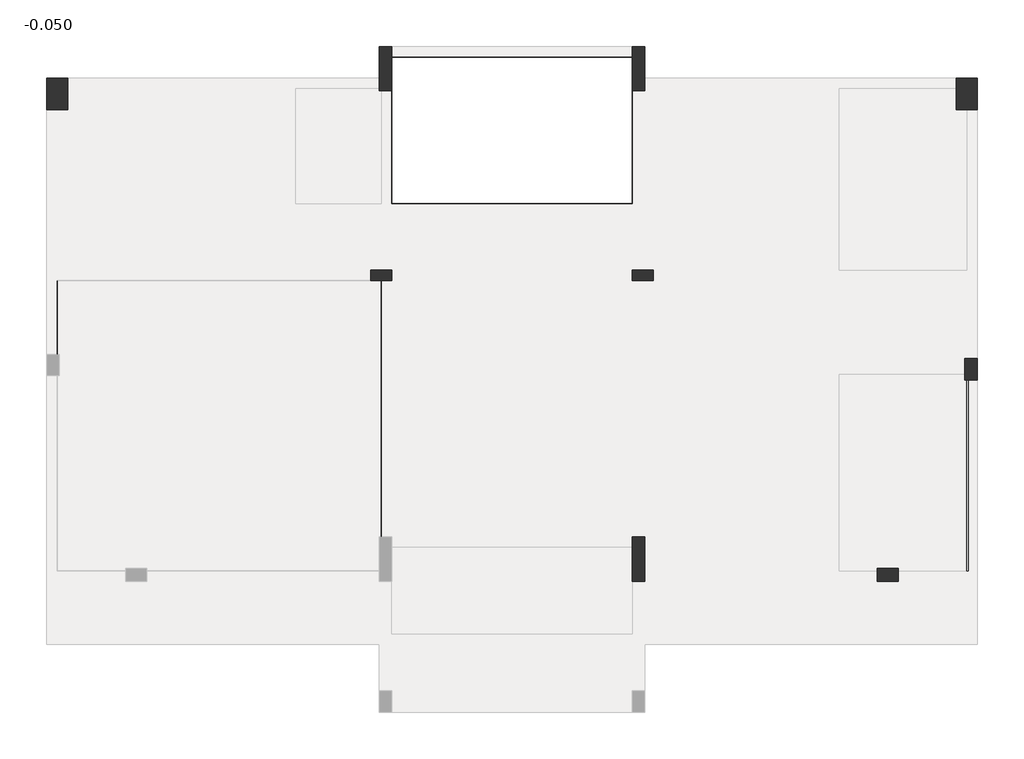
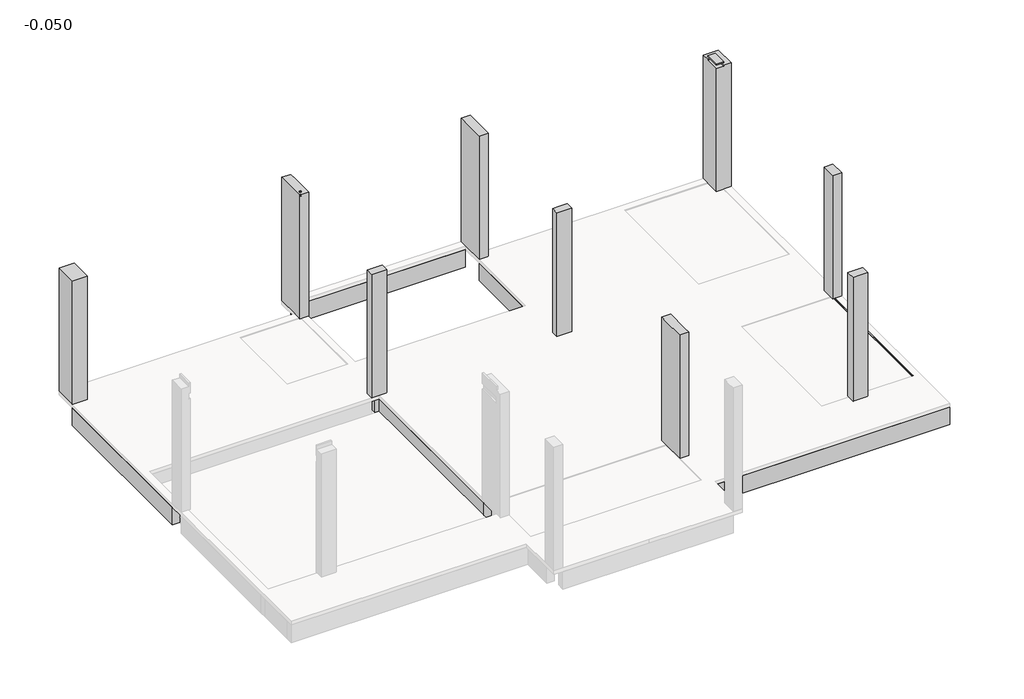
# One storey, part 2 of 2: 19 beams, 9 columns.
"""IFC4 building model written with IfcOpenShell, lengths in millimetres."""

from ifc_helpers import new_model, si_unit, frame, origin, place, context, project, spatial, polyline, outline, extrude, faceted_brep, element, save

model = new_model("IFC4")

# Units and contexts
model_context = context("Model", 3, world=origin())
ifc_project = project(units=[si_unit("LENGTHUNIT", "METRE", prefix="MILLI")], contexts=[model_context])

# Site, building, storey
site = spatial("IfcSite", under=ifc_project)
building = spatial("IfcBuilding", under=site)
storey = spatial("IfcBuildingStorey", under=building, Name="-0.050", Elevation=-50.0)

# Beams
placement = place(None, origin())
element("IfcBeam", 1, ObjectType="混凝土 - 矩形梁 : KL1 200X600", at=placement, inside=storey, context=model_context, shape_type="Brep", body=[
    faceted_brep([(-13044.5197818, 2646.0461731, -650.0), (-7144.5197818, 2646.0461731, -650.0), (-7144.5197818, 2646.0461731, -150.0), (-8724.5197818, 2646.0461731, -150.0), (-8924.5197818, 2646.0461731, -150.0), (-13044.5197818, 2646.0461731, -150.0), (-13044.5197818, 2846.0461731, -650.0), (-7144.5197818, 2846.0461731, -650.0), (-13044.5197818, 2846.0461731, -150.0), (-7144.5197818, 2846.0461731, -150.0)], [[[0, 1, 2, 3, 4, 5]], [[0, 6, 7, 1]], [[7, 6, 8, 9]], [[6, 0, 5, 8]], [[1, 7, 9, 2]], [[5, 4, 3, 2, 9, 8]]]),
])
element("IfcBeam", 2, ObjectType="混凝土 - 矩形梁 : KL1 200X600", at=placement, inside=storey, context=model_context, shape_type="SweptSolid", body=[
    extrude(outline(polyline([(-6904.5197818, 3246.0461731), (-6904.5197818, 3446.0461731), (-2344.5197818, 3446.0461731), (-2344.5197818, 3246.0461731), (-6904.5197818, 3246.0461731)])), frame((0.0, 0.0, -650.0), z_axis=(0.0, 0.0, 1.0), x_axis=(1.0, 0.0, 0.0)), (0.0, 0.0, 1.0), 500.0),
])
element("IfcBeam", 3, ObjectType="混凝土 - 矩形梁 : KL1 200X600", at=placement, inside=storey, context=model_context, shape_type="Brep", body=[
    faceted_brep([(-2104.5197818, 2646.0461731, -650.0), (3795.4802182, 2646.0461731, -650.0), (3795.4802182, 2646.0461731, -150.0), (1575.4802182, 2646.0461731, -150.0), (1375.4802182, 2646.0461731, -150.0), (-2104.5197818, 2646.0461731, -150.0), (3795.4802182, 2846.0461731, -650.0), (-2104.5197818, 2846.0461731, -650.0), (-2104.5197818, 2846.0461731, -150.0), (3795.4802182, 2846.0461731, -150.0)], [[[0, 1, 2, 3, 4, 5]], [[6, 1, 0, 7]], [[6, 7, 8, 9]], [[1, 6, 9, 2]], [[7, 0, 5, 8]], [[3, 2, 9, 8, 5, 4]]]),
])
element("IfcBeam", 4, ObjectType="混凝土 - 矩形梁 : KL1 200X600", at=placement, inside=storey, context=model_context, shape_type="SweptSolid", body=[
    extrude(outline(polyline([(-6904.5197818, -993.9538269), (-6904.5197818, -793.9538269), (-2344.5197818, -793.9538269), (-2344.5197818, -993.9538269), (-6904.5197818, -993.9538269)])), frame((0.0, 0.0, -650.0), z_axis=(0.0, 0.0, 1.0), x_axis=(1.0, 0.0, 0.0)), (0.0, 0.0, 1.0), 500.0),
])
element("IfcBeam", 5, ObjectType="混凝土 - 矩形梁 : KL1 200X600", at=placement, inside=storey, context=model_context, shape_type="SweptSolid", body=[
    extrude(outline(polyline([(-650.0, -1944.5197818), (-650.0, 1575.4802182), (-400.0, 1575.4802182), (-400.0, 1375.4802182), (-150.0, 1375.4802182), (-150.0, -1944.5197818), (-650.0, -1944.5197818)])), frame((0.0, -993.9538269, 0.0), z_axis=(0.0, 1.0, 0.0), x_axis=(0.0, 0.0, 1.0)), (0.0, 0.0, 1.0), 200.0),
])
element("IfcBeam", 6, ObjectType="混凝土 - 矩形梁 : KL1 200X600", at=placement, inside=storey, context=model_context, shape_type="Brep", body=[
    faceted_brep([(1575.4802182, -993.9538269, -650.0), (3995.4802182, -993.9538269, -650.0), (3995.4802182, -993.9538269, -150.0), (1575.4802182, -993.9538269, -150.0), (1575.4802182, -993.9538269, -400.0), (1575.4802182, -793.9538269, -650.0), (3995.4802182, -793.9538269, -650.0), (1575.4802182, -793.9538269, -400.0), (1575.4802182, -793.9538269, -170.0), (1575.4802182, -793.9538269, -150.0), (3995.4802182, -793.9538269, -150.0), (3995.4802182, -793.9538269, -170.0)], [[[0, 1, 2, 3, 4]], [[0, 5, 6, 1]], [[6, 5, 7, 8, 9, 10, 11]], [[5, 0, 4, 3, 9, 8, 7]], [[1, 6, 11, 10, 2]], [[3, 2, 10, 9]]]),
])
element("IfcBeam", 7, ObjectType="混凝土 - 矩形梁 : KL1 200X600", at=placement, inside=storey, context=model_context, shape_type="Brep", body=[
    faceted_brep([(2695.4802182, -6693.9538269, -650.0), (3995.4802182, -6693.9538269, -650.0), (4195.4802182, -6693.9538269, -650.0), (4195.4802182, -6693.9538269, -150.0), (3995.4802182, -6693.9538269, -150.0), (2695.4802182, -6693.9538269, -150.0), (4195.4802182, -6493.9538269, -650.0), (2695.4802182, -6493.9538269, -650.0), (3995.4802182, -6493.9538269, -650.0), (2695.4802182, -6493.9538269, -170.0), (2695.4802182, -6493.9538269, -150.0), (4024.4802182, -6493.9538269, -150.0), (4195.4802182, -6493.9538269, -150.0)], [[[0, 1, 2, 3, 4, 5]], [[6, 2, 1, 0, 7, 8]], [[6, 8, 7, 9, 10, 11, 12]], [[2, 6, 12, 3]], [[7, 0, 5, 10, 9]], [[5, 4, 3, 12, 11, 10]]]),
    faceted_brep([(-2104.5197818, -6493.9538269, -650.0), (-2104.5197818, -6693.9538269, -650.0), (-2104.5197818, -6693.9538269, -150.0), (-2104.5197818, -6493.9538269, -150.0), (2295.4802182, -6693.9538269, -650.0), (2295.4802182, -6493.9538269, -650.0), (2295.4802182, -6493.9538269, -170.0), (2295.4802182, -6493.9538269, -150.0), (2295.4802182, -6693.9538269, -150.0), (1575.4802182, -6693.9538269, -150.0), (1375.4802182, -6693.9538269, -150.0), (1375.4802182, -6493.9538269, -150.0), (1575.4802182, -6493.9538269, -150.0)], [[[0, 1, 2, 3]], [[4, 5, 6, 7, 8]], [[1, 4, 8, 9, 10, 2]], [[1, 0, 5, 4]], [[5, 0, 3, 11, 12, 7, 6]], [[3, 2, 10, 9, 8, 7, 12, 11]]]),
])
element("IfcBeam", 8, ObjectType="混凝土 - 矩形梁 : KL1 200X600", at=placement, inside=storey, context=model_context, shape_type="Brep", body=[
    faceted_brep([(-2144.5197818, -7893.9538269, -650.0), (4195.4802182, -7893.9538269, -650.0), (4195.4802182, -7893.9538269, -150.0), (-2104.5197818, -7893.9538269, -150.0), (-2144.5197818, -7893.9538269, -150.0), (-2144.5197818, -7693.9538269, -650.0), (3995.4802182, -7693.9538269, -650.0), (4195.4802182, -7693.9538269, -650.0), (-2144.5197818, -7693.9538269, -150.0), (1375.4802182, -7693.9538269, -150.0), (1575.4802182, -7693.9538269, -150.0), (3995.4802182, -7693.9538269, -150.0), (4195.4802182, -7693.9538269, -150.0)], [[[0, 1, 2, 3, 4]], [[0, 5, 6, 7, 1]], [[7, 6, 5, 8, 9, 10, 11, 12]], [[5, 0, 4, 8]], [[1, 7, 12, 2]], [[3, 2, 12, 11, 10, 9, 8, 4]]]),
])
element("IfcBeam", 9, ObjectType="混凝土 - 矩形梁 : KL1 200X600", at=placement, inside=storey, context=model_context, shape_type="Brep", body=[
    faceted_brep([(-13444.5197818, 2246.0461731, -650.0), (-13444.5197818, -2393.9538269, -650.0), (-13444.5197818, -2393.9538269, -150.0), (-13444.5197818, 2246.0461731, -150.0), (-13244.5197818, -2393.9538269, -650.0), (-13244.5197818, 2246.0461731, -650.0), (-13244.5197818, -793.9538269, -650.0), (-13244.5197818, -993.9538269, -650.0), (-13244.5197818, 2246.0461731, -150.0), (-13244.5197818, 466.0461731, -150.0), (-13244.5197818, 266.0461731, -150.0), (-13244.5197818, -793.9538269, -150.0), (-13244.5197818, -993.9538269, -150.0), (-13244.5197818, -2393.9538269, -150.0)], [[[0, 1, 2, 3]], [[4, 1, 0, 5, 6, 7]], [[4, 7, 6, 5, 8, 9, 10, 11, 12, 13]], [[1, 4, 13, 2]], [[5, 0, 3, 8]], [[3, 2, 13, 12, 11, 10, 9, 8]]]),
])
element("IfcBeam", 10, ObjectType="混凝土 - 矩形梁 : KL1 200X600", at=placement, inside=storey, context=model_context, shape_type="Brep", body=[
    faceted_brep([(-7104.5197818, -993.9538269, -650.0), (-7104.5197818, -5853.9538269, -650.0), (-7104.5197818, -5853.9538269, -150.0), (-7104.5197818, -993.9538269, -150.0), (-7104.5197818, -993.9538269, -500.0), (-6904.5197818, -5853.9538269, -650.0), (-6904.5197818, -993.9538269, -650.0), (-6904.5197818, -993.9538269, -150.0), (-6904.5197818, -5853.9538269, -150.0)], [[[0, 1, 2, 3, 4]], [[5, 1, 0, 6]], [[5, 6, 7, 8]], [[1, 5, 8, 2]], [[6, 0, 4, 3, 7]], [[3, 2, 8, 7]]]),
    faceted_brep([(-6904.5197818, 2606.0461731, -650.0), (-7104.5197818, 2606.0461731, -650.0), (-7104.5197818, 2606.0461731, -150.0), (-6904.5197818, 2606.0461731, -150.0), (-7104.5197818, -793.9538269, -650.0), (-6904.5197818, -793.9538269, -650.0), (-6904.5197818, -793.9538269, -150.0), (-7104.5197818, -793.9538269, -150.0), (-7104.5197818, 266.0461731, -150.0), (-7104.5197818, 466.0461731, -150.0), (-6904.5197818, 466.0461731, -150.0), (-6904.5197818, 266.0461731, -150.0)], [[[0, 1, 2, 3]], [[4, 5, 6, 7]], [[1, 4, 7, 8, 9, 2]], [[1, 0, 5, 4]], [[5, 0, 3, 10, 11, 6]], [[3, 2, 9, 8, 7, 6, 11, 10]]]),
])
element("IfcBeam", 11, ObjectType="混凝土 - 矩形梁 : KL1 200X600", at=placement, inside=storey, context=model_context, shape_type="Brep", body=[
    faceted_brep([(-2144.5197818, -5853.9538269, -650.0), (-2144.5197818, -993.9538269, -650.0), (-2144.5197818, -993.9538269, -150.0), (-2144.5197818, -2573.9538269, -150.0), (-2144.5197818, -2773.9538269, -150.0), (-2144.5197818, -5853.9538269, -150.0), (-2344.5197818, -5853.9538269, -650.0), (-2344.5197818, -993.9538269, -650.0), (-2224.5197818, -993.9538269, -650.0), (-2344.5197818, -5853.9538269, -150.0), (-2344.5197818, -993.9538269, -150.0)], [[[0, 1, 2, 3, 4, 5]], [[0, 6, 7, 8, 1]], [[7, 6, 9, 10]], [[6, 0, 5, 9]], [[8, 7, 10, 2, 1]], [[5, 4, 3, 2, 10, 9]]]),
    faceted_brep([(-2144.5197818, 2606.0461731, -650.0), (-2344.5197818, 2606.0461731, -650.0), (-2344.5197818, 2606.0461731, -150.0), (-2144.5197818, 2606.0461731, -150.0), (-2344.5197818, -793.9538269, -650.0), (-2224.5197818, -793.9538269, -650.0), (-2144.5197818, -793.9538269, -650.0), (-2144.5197818, -793.9538269, -150.0), (-2344.5197818, -793.9538269, -150.0), (-2144.5197818, 466.0461731, -150.0), (-2144.5197818, 266.0461731, -150.0), (-2344.5197818, 266.0461731, -150.0), (-2344.5197818, 466.0461731, -150.0)], [[[0, 1, 2, 3]], [[4, 5, 6, 7, 8]], [[6, 0, 3, 9, 10, 7]], [[1, 0, 6, 5, 4]], [[1, 4, 8, 11, 12, 2]], [[3, 2, 12, 11, 8, 7, 10, 9]]]),
])
element("IfcBeam", 12, ObjectType="混凝土 - 矩形梁 : KL1 200X600", at=placement, inside=storey, context=model_context, shape_type="Brep", body=[
    faceted_brep([(3995.4802182, 2246.0461731, -650.0), (3995.4802182, -793.9538269, -650.0), (3995.4802182, -993.9538269, -650.0), (3995.4802182, -2473.9538269, -650.0), (3995.4802182, -2473.9538269, -150.0), (3995.4802182, -993.9538269, -150.0), (3995.4802182, -793.9538269, -150.0), (3995.4802182, 2246.0461731, -150.0), (4195.4802182, -2473.9538269, -650.0), (4195.4802182, 2246.0461731, -650.0), (4195.4802182, 2246.0461731, -150.0), (4195.4802182, -2473.9538269, -150.0)], [[[0, 1, 2, 3, 4, 5, 6, 7]], [[8, 3, 2, 1, 0, 9]], [[8, 9, 10, 11]], [[3, 8, 11, 4]], [[9, 0, 7, 10]], [[6, 5, 4, 11, 10, 7]]]),
])
element("IfcBeam", 13, ObjectType="混凝土 - 矩形梁 : KL1 200X600", at=placement, inside=storey, context=model_context, shape_type="Brep", body=[
    faceted_brep([(4024.4802182, -2873.9538269, -50.0), (3995.4802182, -2873.9538269, -50.0), (3995.4802182, -6493.9538269, -50.0), (4024.4802182, -6493.9538269, -50.0), (3995.4802182, -2873.9538269, -650.0), (4024.4802182, -2873.9538269, -150.0), (4195.4802182, -2873.9538269, -150.0), (4195.4802182, -2873.9538269, -650.0), (4024.4802182, -6493.9538269, -150.0), (3995.4802182, -6493.9538269, -70.0), (3995.4802182, -6493.9538269, -170.0), (3995.4802182, -6493.9538269, -650.0), (4195.4802182, -6493.9538269, -650.0), (4195.4802182, -6493.9538269, -150.0)], [[[0, 1, 2, 3]], [[4, 1, 0, 5, 6, 7]], [[8, 3, 2, 9, 10, 11, 12, 13]], [[3, 8, 5, 0]], [[1, 4, 11, 10, 9, 2]], [[4, 7, 12, 11]], [[7, 6, 13, 12]], [[5, 8, 13, 6]]]),
    faceted_brep([(3995.4802182, -7693.9538269, -650.0), (3995.4802182, -7693.9538269, -150.0), (3995.4802182, -6693.9538269, -150.0), (3995.4802182, -6693.9538269, -650.0), (4195.4802182, -7693.9538269, -650.0), (4195.4802182, -6693.9538269, -650.0), (4195.4802182, -7693.9538269, -150.0), (4195.4802182, -6693.9538269, -150.0)], [[[0, 1, 2, 3]], [[4, 0, 3, 5]], [[6, 4, 5, 7]], [[0, 4, 6, 1]], [[1, 6, 7, 2]], [[3, 2, 7, 5]]]),
])
element("IfcBeam", 14, ObjectType="混凝土 - 矩形梁 : KL2 200X350", at=placement, inside=storey, context=model_context, shape_type="Brep", body=[
    faceted_brep([(-13244.5197818, 266.0461731, -400.0), (-8924.5197818, 266.0461731, -400.0), (-8724.5197818, 266.0461731, -400.0), (-7104.5197818, 266.0461731, -400.0), (-7104.5197818, 266.0461731, -150.0), (-8724.5197818, 266.0461731, -150.0), (-8924.5197818, 266.0461731, -150.0), (-13244.5197818, 266.0461731, -150.0), (-13244.5197818, 466.0461731, -400.0), (-8924.5197818, 466.0461731, -400.0), (-8724.5197818, 466.0461731, -400.0), (-7104.5197818, 466.0461731, -400.0), (-13244.5197818, 466.0461731, -150.0), (-8924.5197818, 466.0461731, -150.0), (-8724.5197818, 466.0461731, -150.0), (-7104.5197818, 466.0461731, -150.0)], [[[0, 1, 2, 3, 4, 5, 6, 7]], [[0, 8, 9, 10, 11, 3, 2, 1]], [[11, 10, 9, 8, 12, 13, 14, 15]], [[8, 0, 7, 12]], [[3, 11, 15, 4]], [[7, 6, 5, 4, 15, 14, 13, 12]]]),
])
element("IfcBeam", 15, ObjectType="混凝土 - 矩形梁 : KL2 200X350", at=placement, inside=storey, context=model_context, shape_type="SweptSolid", body=[
    extrude(outline(polyline([(-6904.5197818, 266.0461731), (-6904.5197818, 466.0461731), (-2344.5197818, 466.0461731), (-2344.5197818, 266.0461731), (-6904.5197818, 266.0461731)])), frame((0.0, 0.0, -400.0), z_axis=(0.0, 0.0, 1.0), x_axis=(1.0, 0.0, 0.0)), (0.0, 0.0, 1.0), 250.0),
])
element("IfcBeam", 16, ObjectType="混凝土 - 矩形梁 : KL2 200X350", at=placement, inside=storey, context=model_context, shape_type="SweptSolid", body=[
    extrude(outline(polyline([(-2144.5197818, 266.0461731), (-2144.5197818, 466.0461731), (1375.4802182, 466.0461731), (1375.4802182, 266.0461731), (-2144.5197818, 266.0461731)])), frame((0.0, 0.0, -400.0), z_axis=(0.0, 0.0, 1.0), x_axis=(1.0, 0.0, 0.0)), (0.0, 0.0, 1.0), 250.0),
])
element("IfcBeam", 17, ObjectType="混凝土 - 矩形梁 : KL2 200X350", at=placement, inside=storey, context=model_context, shape_type="Brep", body=[
    faceted_brep([(3955.4802182, -2573.9538269, -400.0), (1575.4802182, -2573.9538269, -400.0), (1375.4802182, -2573.9538269, -400.0), (-2144.5197818, -2573.9538269, -400.0), (-2144.5197818, -2573.9538269, -150.0), (1375.4802182, -2573.9538269, -150.0), (1575.4802182, -2573.9538269, -150.0), (3955.4802182, -2573.9538269, -150.0), (3955.4802182, -2773.9538269, -400.0), (1575.4802182, -2773.9538269, -400.0), (1375.4802182, -2773.9538269, -400.0), (-2144.5197818, -2773.9538269, -400.0), (3955.4802182, -2773.9538269, -150.0), (1575.4802182, -2773.9538269, -150.0), (1375.4802182, -2773.9538269, -150.0), (-2144.5197818, -2773.9538269, -150.0)], [[[0, 1, 2, 3, 4, 5, 6, 7]], [[0, 8, 9, 10, 11, 3, 2, 1]], [[11, 10, 9, 8, 12, 13, 14, 15]], [[8, 0, 7, 12]], [[3, 11, 15, 4]], [[7, 6, 5, 4, 15, 14, 13, 12]]]),
])
element("IfcBeam", 18, ObjectType="混凝土 - 矩形梁 : KL2 200X350", at=placement, inside=storey, context=model_context, shape_type="SweptSolid", body=[
    extrude(outline(polyline([(-8724.5197818, -793.9538269), (-8924.5197818, -793.9538269), (-8924.5197818, 266.0461731), (-8724.5197818, 266.0461731), (-8724.5197818, -793.9538269)])), frame((0.0, 0.0, -400.0), z_axis=(0.0, 0.0, 1.0), x_axis=(1.0, 0.0, 0.0)), (0.0, 0.0, 1.0), 250.0),
    extrude(outline(polyline([(-8924.5197818, 2646.0461731), (-8724.5197818, 2646.0461731), (-8724.5197818, 466.0461731), (-8924.5197818, 466.0461731), (-8924.5197818, 2646.0461731)])), frame((0.0, 0.0, -400.0), z_axis=(0.0, 0.0, 1.0), x_axis=(1.0, 0.0, 0.0)), (0.0, 0.0, 1.0), 250.0),
])
element("IfcBeam", 19, ObjectType="混凝土 - 矩形梁 : KL2 200X350", at=placement, inside=storey, context=model_context, shape_type="Brep", body=[
    faceted_brep([(1375.4802182, 2646.0461731, -400.0), (1375.4802182, 466.0461731, -400.0), (1375.4802182, 266.0461731, -400.0), (1375.4802182, -793.9538269, -400.0), (1375.4802182, -993.9538269, -400.0), (1375.4802182, -2573.9538269, -400.0), (1375.4802182, -2573.9538269, -150.0), (1375.4802182, -993.9538269, -150.0), (1375.4802182, -793.9538269, -150.0), (1375.4802182, 266.0461731, -150.0), (1375.4802182, 466.0461731, -150.0), (1375.4802182, 2646.0461731, -150.0), (1575.4802182, 2646.0461731, -400.0), (1575.4802182, -793.9538269, -400.0), (1575.4802182, -993.9538269, -400.0), (1575.4802182, -2573.9538269, -400.0), (1575.4802182, 2646.0461731, -170.0), (1575.4802182, 2646.0461731, -150.0), (1575.4802182, -793.9538269, -150.0), (1575.4802182, -993.9538269, -150.0), (1575.4802182, -2573.9538269, -150.0)], [[[0, 1, 2, 3, 4, 5, 6, 7, 8, 9, 10, 11]], [[0, 12, 13, 14, 15, 5, 4, 3, 2, 1]], [[15, 14, 13, 12, 16, 17, 18, 19, 20]], [[12, 0, 11, 17, 16]], [[5, 15, 20, 6]], [[11, 10, 9, 8, 7, 6, 20, 19, 18, 17]]]),
    faceted_brep([(1375.4802182, -7693.9538269, -400.0), (1575.4802182, -7693.9538269, -400.0), (1575.4802182, -7693.9538269, -150.0), (1375.4802182, -7693.9538269, -150.0), (1375.4802182, -6693.9538269, -400.0), (1375.4802182, -6693.9538269, -150.0), (1575.4802182, -6693.9538269, -400.0), (1575.4802182, -6693.9538269, -150.0)], [[[0, 1, 2, 3]], [[4, 0, 3, 5]], [[1, 0, 4, 6]], [[1, 6, 7, 2]], [[6, 4, 5, 7]], [[3, 2, 7, 5]]]),
    faceted_brep([(1575.4802182, -2773.9538269, -400.0), (1375.4802182, -2773.9538269, -400.0), (1375.4802182, -2773.9538269, -150.0), (1575.4802182, -2773.9538269, -150.0), (1575.4802182, -2773.9538269, -170.0), (1375.4802182, -6493.9538269, -400.0), (1575.4802182, -6493.9538269, -400.0), (1575.4802182, -6493.9538269, -170.0), (1575.4802182, -6493.9538269, -150.0), (1375.4802182, -6493.9538269, -150.0)], [[[0, 1, 2, 3, 4]], [[5, 6, 7, 8, 9]], [[1, 5, 9, 2]], [[1, 0, 6, 5]], [[6, 0, 4, 3, 8, 7]], [[3, 2, 9, 8]]]),
])

# Columns
element("IfcColumn", 20, ObjectType="混凝土 - 矩形 - 柱 : KZ1  200X400", at=placement, inside=storey, context=model_context, shape_type="Brep", body=[
    faceted_brep([(-7304.5197818, -793.9538269, -50.0), (-6904.5197818, -793.9538269, -50.0), (-6904.5197818, -993.9538269, -50.0), (-7104.5197818, -993.9538269, -50.0), (-7304.5197818, -993.9538269, -50.0), (-7304.5197818, -793.9538269, 2950.0), (-7304.5197818, -793.9538269, 3420.0), (-7304.5197818, -793.9538269, 3450.0), (-7104.5197818, -793.9538269, 3450.0), (-6904.5197818, -793.9538269, 3450.0), (-6904.5197818, -793.9538269, 2950.0), (-6904.5197818, -993.9538269, 3450.0), (-6904.5197818, -993.9538269, 2950.0), (-7104.5197818, -993.9538269, 3450.0), (-7304.5197818, -993.9538269, 3450.0), (-7304.5197818, -993.9538269, 2950.0)], [[[0, 1, 2, 3, 4]], [[1, 0, 5, 6, 7, 8, 9, 10]], [[2, 1, 10, 9, 11, 12]], [[4, 3, 2, 12, 11, 13, 14, 15]], [[0, 4, 15, 14, 7, 6, 5]], [[9, 8, 7, 14, 13, 11]]]),
])
element("IfcColumn", 21, ObjectType="混凝土 - 矩形 - 柱 : KZ1  200X400", at=placement, inside=storey, context=model_context, shape_type="Brep", body=[
    faceted_brep([(-1944.5197818, -793.9538269, -50.0), (-1944.5197818, -993.9538269, -50.0), (-2344.5197818, -993.9538269, -50.0), (-2344.5197818, -793.9538269, -50.0), (-2344.5197818, -793.9538269, 2950.0), (-2344.5197818, -793.9538269, 3450.0), (-2144.5197818, -793.9538269, 3450.0), (-1944.5197818, -793.9538269, 3450.0), (-1944.5197818, -793.9538269, 2950.0), (-2344.5197818, -993.9538269, 2950.0), (-2344.5197818, -993.9538269, 3450.0), (-1944.5197818, -993.9538269, 2950.0), (-1944.5197818, -993.9538269, 3450.0), (-2144.5197818, -993.9538269, 3450.0)], [[[0, 1, 2, 3]], [[0, 3, 4, 5, 6, 7, 8]], [[3, 2, 9, 10, 5, 4]], [[2, 1, 11, 12, 13, 10, 9]], [[1, 0, 8, 7, 12, 11]], [[7, 6, 5, 10, 13, 12]]]),
])
element("IfcColumn", 22, ObjectType="混凝土 - 矩形 - 柱 : KZ2  240X400", at=placement, inside=storey, context=model_context, shape_type="Brep", body=[
    faceted_brep([(3955.4802182, -2473.9538269, -50.0), (4195.4802182, -2473.9538269, -50.0), (4195.4802182, -2873.9538269, -50.0), (3955.4802182, -2873.9538269, -50.0), (3955.4802182, -2873.9538269, 3450.0), (3955.4802182, -2753.9538269, 3450.0), (3955.4802182, -2553.9538269, 3450.0), (3955.4802182, -2473.9538269, 3450.0), (4195.4802182, -2873.9538269, 2950.0), (4195.4802182, -2873.9538269, 3450.0), (3995.4802182, -2873.9538269, 3450.0), (4195.4802182, -2473.9538269, 2950.0), (4195.4802182, -2473.9538269, 3450.0), (3995.4802182, -2473.9538269, 3450.0)], [[[0, 1, 2, 3]], [[0, 3, 4, 5, 6, 7]], [[3, 2, 8, 9, 10, 4]], [[2, 1, 11, 12, 9, 8]], [[1, 0, 7, 13, 12, 11]], [[7, 6, 5, 4, 10, 9, 12, 13]]]),
])
element("IfcColumn", 23, ObjectType="混凝土 - 矩形 - 柱 : KZ2  240X400", at=placement, inside=storey, context=model_context, shape_type="Brep", body=[
    faceted_brep([(2695.4802182, -6453.9538269, -50.0), (2695.4802182, -6693.9538269, -50.0), (2295.4802182, -6693.9538269, -50.0), (2295.4802182, -6453.9538269, -50.0), (2295.4802182, -6453.9538269, 3450.0), (2495.4802182, -6453.9538269, 3450.0), (2695.4802182, -6453.9538269, 3450.0), (2695.4802182, -6453.9538269, 3200.0), (2295.4802182, -6693.9538269, 2950.0), (2295.4802182, -6693.9538269, 3420.0), (2295.4802182, -6693.9538269, 3450.0), (2295.4802182, -6493.9538269, 3450.0), (2695.4802182, -6693.9538269, 2950.0), (2695.4802182, -6693.9538269, 3200.0), (2695.4802182, -6693.9538269, 3450.0), (2495.4802182, -6693.9538269, 3450.0), (2695.4802182, -6493.9538269, 3450.0)], [[[0, 1, 2, 3]], [[0, 3, 4, 5, 6, 7]], [[3, 2, 8, 9, 10, 11, 4]], [[2, 1, 12, 13, 14, 15, 10, 9, 8]], [[1, 0, 7, 6, 16, 14, 13, 12]], [[6, 5, 4, 11, 10, 15, 14, 16]]]),
])
element("IfcColumn", 24, ObjectType="混凝土 - 矩形 - 柱 : KZ3 400X600", at=placement, inside=storey, context=model_context, shape_type="Brep", body=[
    faceted_brep([(-13044.5197818, 2846.0461731, -50.0), (-13044.5197818, 2246.0461731, -50.0), (-13444.5197818, 2246.0461731, -50.0), (-13444.5197818, 2846.0461731, -50.0), (-13044.5197818, 2846.0461731, 2950.0), (-13044.5197818, 2846.0461731, 3450.0), (-13044.5197818, 2646.0461731, 3450.0), (-13044.5197818, 2246.0461731, 3450.0), (-13244.5197818, 2246.0461731, 3450.0), (-13444.5197818, 2246.0461731, 3450.0), (-13444.5197818, 2246.0461731, 2950.0), (-13444.5197818, 2846.0461731, 3450.0)], [[[0, 1, 2, 3]], [[1, 0, 4, 5, 6, 7]], [[2, 1, 7, 8, 9, 10]], [[3, 2, 10, 9, 11]], [[0, 3, 11, 5, 4]], [[7, 6, 5, 11, 9, 8]]]),
])
element("IfcColumn", 25, ObjectType="混凝土 - 矩形 - 柱 : KZ3 400X600", at=placement, inside=storey, context=model_context, shape_type="Brep", body=[
    faceted_brep([(3795.4802182, 2846.0461731, -50.0), (4195.4802182, 2846.0461731, -50.0), (4195.4802182, 2246.0461731, -50.0), (3795.4802182, 2246.0461731, -50.0), (4195.4802182, 2846.0461731, 3450.0), (4195.4802182, 2246.0461731, 3450.0), (4195.4802182, 2246.0461731, 2950.0), (3795.4802182, 2846.0461731, 2950.0), (3795.4802182, 2846.0461731, 3450.0), (3795.4802182, 2646.0461731, 3450.0), (3995.4802182, 2646.0461731, 3450.0), (3995.4802182, 2246.0461731, 3450.0), (3995.4802182, 2246.0461731, 3420.0), (3995.4802182, 2646.0461731, 3420.0), (3795.4802182, 2646.0461731, 3420.0), (3795.4802182, 2246.0461731, 3420.0)], [[[0, 1, 2, 3]], [[2, 1, 4, 5, 6]], [[1, 0, 7, 8, 4]], [[8, 9, 10, 11, 5, 4]], [[12, 13, 14, 15]], [[13, 10, 9, 14]], [[10, 13, 12, 11]], [[0, 3, 15, 14, 9, 8, 7]], [[3, 2, 6, 5, 11, 12, 15]]]),
    faceted_brep([(3795.4802182, 2246.0461731, 3550.0), (3795.4802182, 2646.0461731, 3550.0), (3795.4802182, 2646.0461731, 3520.0), (3795.4802182, 2246.0461731, 3520.0), (3995.4802182, 2246.0461731, 3550.0), (3995.4802182, 2246.0461731, 3520.0), (3995.4802182, 2646.0461731, 3550.0), (3995.4802182, 2646.0461731, 3520.0)], [[[0, 1, 2, 3]], [[4, 0, 3, 5]], [[1, 0, 4, 6]], [[1, 6, 7, 2]], [[6, 4, 5, 7]], [[3, 2, 7, 5]]]),
])
element("IfcColumn", 26, ObjectType="混凝土 - 矩形 - 柱 : KZ4 240X840", at=placement, inside=storey, context=model_context, shape_type="Brep", body=[
    faceted_brep([(-2104.5197818, -6693.9538269, -50.0), (-2344.5197818, -6693.9538269, -50.0), (-2344.5197818, -6053.9538269, -50.0), (-2344.5197818, -5853.9538269, -50.0), (-2104.5197818, -5853.9538269, -50.0), (-2104.5197818, -5853.9538269, 3450.0), (-2104.5197818, -6493.9538269, 3450.0), (-2104.5197818, -6693.9538269, 3450.0), (-2104.5197818, -6693.9538269, 3420.0), (-2104.5197818, -6693.9538269, 2950.0), (-2344.5197818, -5853.9538269, 2950.0), (-2344.5197818, -5853.9538269, 3450.0), (-2144.5197818, -5853.9538269, 3450.0), (-2344.5197818, -6693.9538269, 2950.0), (-2344.5197818, -6693.9538269, 3450.0), (-2344.5197818, -6053.9538269, 3450.0), (-2144.5197818, -6693.9538269, 3450.0)], [[[0, 1, 2, 3, 4]], [[0, 4, 5, 6, 7, 8, 9]], [[4, 3, 10, 11, 12, 5]], [[3, 2, 1, 13, 14, 15, 11, 10]], [[1, 0, 9, 8, 7, 16, 14, 13]], [[7, 6, 5, 12, 11, 15, 14, 16]]]),
])
element("IfcColumn", 27, ObjectType="混凝土 - 矩形 - 柱 : KZ4 240X840", at=placement, inside=storey, context=model_context, shape_type="Brep", body=[
    faceted_brep([(-7144.5197818, 2606.0461731, -50.0), (-7144.5197818, 2846.0461731, -50.0), (-7144.5197818, 3446.0461731, -50.0), (-6904.5197818, 3446.0461731, -50.0), (-6904.5197818, 3246.0461731, -50.0), (-6904.5197818, 2606.0461731, -50.0), (-7144.5197818, 3446.0461731, 3450.0), (-6904.5197818, 3446.0461731, 3450.0), (-6904.5197818, 3446.0461731, 2950.0), (-6904.5197818, 3246.0461731, 3450.0), (-6904.5197818, 2606.0461731, 3450.0), (-6904.5197818, 2606.0461731, 2950.0), (-7144.5197818, 2846.0461731, 3450.0), (-7144.5197818, 2646.0461731, 3450.0), (-7104.5197818, 2646.0461731, 3450.0), (-7104.5197818, 2606.0461731, 3450.0), (-7104.5197818, 2646.0461731, 3420.0), (-7144.5197818, 2646.0461731, 3420.0), (-7144.5197818, 2606.0461731, 3420.0), (-7104.5197818, 2606.0461731, 3420.0)], [[[0, 1, 2, 3, 4, 5]], [[3, 2, 6, 7, 8]], [[5, 4, 3, 8, 7, 9, 10, 11]], [[6, 12, 13, 14, 15, 10, 9, 7]], [[16, 17, 18, 19]], [[14, 16, 19, 15]], [[16, 14, 13, 17]], [[2, 1, 0, 18, 17, 13, 12, 6]], [[0, 5, 11, 10, 15, 19, 18]]]),
    faceted_brep([(-7144.5197818, 2606.0461731, 3550.0), (-7144.5197818, 2646.0461731, 3550.0), (-7144.5197818, 2646.0461731, 3520.0), (-7144.5197818, 2606.0461731, 3520.0), (-7104.5197818, 2606.0461731, 3550.0), (-7104.5197818, 2606.0461731, 3520.0), (-7104.5197818, 2646.0461731, 3550.0), (-7104.5197818, 2646.0461731, 3520.0)], [[[0, 1, 2, 3]], [[4, 0, 3, 5]], [[0, 4, 6, 1]], [[1, 6, 7, 2]], [[6, 4, 5, 7]], [[3, 2, 7, 5]]]),
])
element("IfcColumn", 28, ObjectType="混凝土 - 矩形 - 柱 : KZ4 240X840", at=placement, inside=storey, context=model_context, shape_type="Brep", body=[
    faceted_brep([(-2104.5197818, 2606.0461731, -50.0), (-2344.5197818, 2606.0461731, -50.0), (-2344.5197818, 3246.0461731, -50.0), (-2344.5197818, 3446.0461731, -50.0), (-2104.5197818, 3446.0461731, -50.0), (-2104.5197818, 2846.0461731, -50.0), (-2104.5197818, 3446.0461731, 3450.0), (-2104.5197818, 2846.0461731, 3450.0), (-2104.5197818, 2646.0461731, 3450.0), (-2104.5197818, 2606.0461731, 3450.0), (-2344.5197818, 3446.0461731, 2950.0), (-2344.5197818, 3446.0461731, 3450.0), (-2344.5197818, 2606.0461731, 2950.0), (-2344.5197818, 2606.0461731, 3450.0), (-2344.5197818, 3246.0461731, 3450.0), (-2144.5197818, 2606.0461731, 3450.0)], [[[0, 1, 2, 3, 4, 5]], [[0, 5, 4, 6, 7, 8, 9]], [[4, 3, 10, 11, 6]], [[3, 2, 1, 12, 13, 14, 11, 10]], [[1, 0, 9, 15, 13, 12]], [[7, 6, 11, 14, 13, 15, 9, 8]]]),
])

save(model, "model.ifc")
